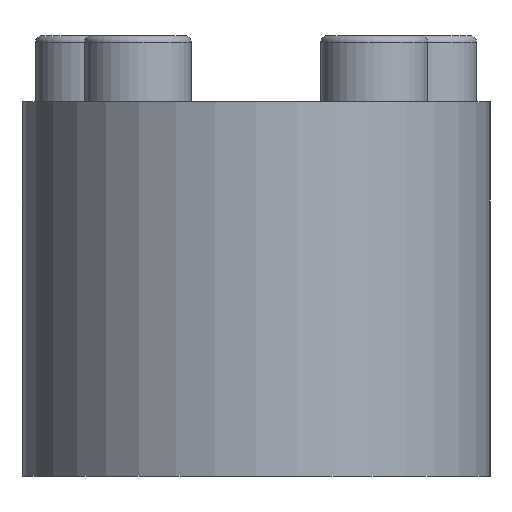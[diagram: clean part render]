
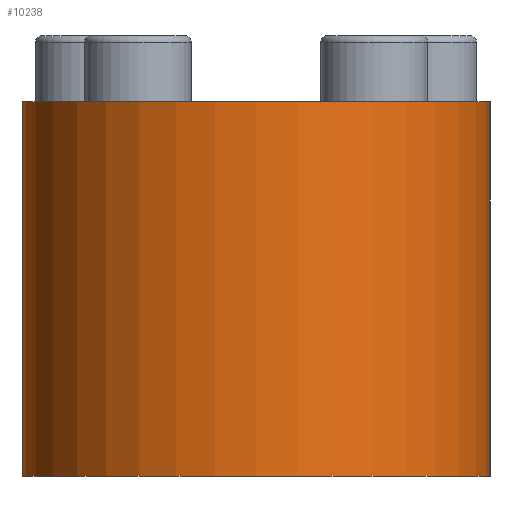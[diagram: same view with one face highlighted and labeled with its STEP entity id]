
A CAD part, left-side view. The second image highlights one B-rep face of the part: STEP entity #10238.
In plain terms, the highlighted cylindrical face has radius 35 mm (diameter 70 mm), a partial arc.
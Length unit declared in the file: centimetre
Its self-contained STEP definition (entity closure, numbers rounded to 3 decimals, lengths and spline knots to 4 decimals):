
#832=CYLINDRICAL_SURFACE('',#10848,3.5);
#1524=FACE_OUTER_BOUND('',#2161,.T.);
#2161=EDGE_LOOP('',(#7799,#7800,#7801,#7802));
#2928=LINE('',#14802,#3842);
#2929=LINE('',#14806,#3843);
#3842=VECTOR('',#11762,5.6);
#3843=VECTOR('',#11767,5.6);
#4452=CIRCLE('',#10709,3.5);
#4475=CIRCLE('',#10849,3.5);
#4507=VERTEX_POINT('',#12874);
#4508=VERTEX_POINT('',#12876);
#5028=VERTEX_POINT('',#14800);
#5029=VERTEX_POINT('',#14804);
#5485=EDGE_CURVE('',#4507,#4508,#4452,.T.);
#6084=EDGE_CURVE('',#5028,#4508,#2928,.T.);
#6085=EDGE_CURVE('',#5028,#5029,#4475,.T.);
#6086=EDGE_CURVE('',#5029,#4507,#2929,.T.);
#7799=ORIENTED_EDGE('',*,*,#6085,.F.);
#7800=ORIENTED_EDGE('',*,*,#6084,.T.);
#7801=ORIENTED_EDGE('',*,*,#5485,.F.);
#7802=ORIENTED_EDGE('',*,*,#6086,.F.);
#10238=ADVANCED_FACE('',(#1524),#832,.T.);
#10709=AXIS2_PLACEMENT_3D('',#12877,#11162,#11163);
#10848=AXIS2_PLACEMENT_3D('',#14803,#11763,#11764);
#10849=AXIS2_PLACEMENT_3D('',#14805,#11765,#11766);
#11162=DIRECTION('center_axis',(0.,0.,
1.));
#11163=DIRECTION('ref_axis',(0.,1.,0.));
#11762=DIRECTION('',(0.,0.,1.));
#11763=DIRECTION('center_axis',(0.,0.,1.));
#11764=DIRECTION('ref_axis',(0.,-1.,0.));
#11765=DIRECTION('center_axis',(0.,0.,-1.));
#11766=DIRECTION('ref_axis',(0.,-1.,0.));
#11767=DIRECTION('',(0.,0.,1.));
#12874=CARTESIAN_POINT('',(-7.8,3.5,5.6));
#12876=CARTESIAN_POINT('',(-7.8,-3.5,5.6));
#12877=CARTESIAN_POINT('Origin',(-7.8,0.,5.6));
#14800=CARTESIAN_POINT('',(-7.8,-3.5,0.));
#14802=CARTESIAN_POINT('',(-7.8,-3.5,0.));
#14803=CARTESIAN_POINT('Origin',(-7.8,0.,0.));
#14804=CARTESIAN_POINT('',(-7.8,3.5,0.));
#14805=CARTESIAN_POINT('Origin',(-7.8,0.,0.));
#14806=CARTESIAN_POINT('',(-7.8,3.5,0.));
